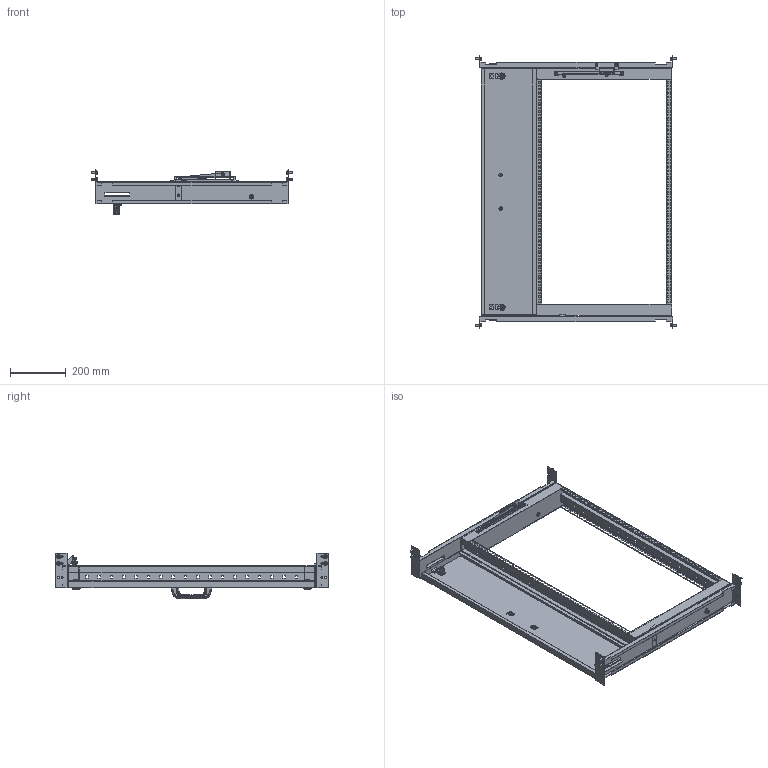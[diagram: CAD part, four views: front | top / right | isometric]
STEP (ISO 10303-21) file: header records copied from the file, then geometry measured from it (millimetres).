
FILE_DESCRIPTION(('Open CASCADE Model'),'2;1');
FILE_NAME('Open CASCADE Shape Model','2025-03-24T10:15:18',('Author'),( 'Open CASCADE'),'Open CASCADE STEP processor 7.8','Open CASCADE 7.8' ,'Unknown');
FILE_SCHEMA(('AUTOMOTIVE_DESIGN { 1 0 10303 214 1 1 1 1 }'));
Length unit declared in the file: millimetre
Products named in the file (32): Compound1; Compound2; Solid1; Solid2; Compound3; Solid3; Solid4; Solid5; Solid6; Solid7; Solid8; Solid9; Solid10; Solid11; Solid12; Solid13; Solid14; Solid15; Solid16; Solid17; Compound4; Solid18; Solid19; Solid20; Solid21; Compound5; Solid22; Solid23; Solid24; Solid25; Solid26; Solid27
Assembly tree (50 placements, depth 3):
  Compound1
    Compound2
      Solid1
      Solid2
    Compound3
      Solid3
      Solid2
    Solid4  x2
    Solid5  x2
    Solid6
    Solid7
    Solid8
    Solid9
    Solid10
    Solid11  x2
    Solid12  x4
    Solid13  x8
    Solid14
    Solid15
    Solid16  x2
    Solid17  x2
    Compound4
      Solid18
      Solid19
    Solid20
    Solid21
    Compound5
      Solid22  x2
      Solid23
      Solid24  x2
      Solid25
      Solid26  x2
      Solid27
Bounding box: 726 x 981.5 x 165 mm (x, y, z)
Volume: 1559586.5 mm3; surface area: 1934412.7 mm2
Topology: 48 solids, 66 shells, 4575 faces, 12510 edges, 8025 vertices
Faces by surface type: plane 2488, cylinder 724, bspline 670, cone 439, torus 176, sphere 78
Entity records: 120648 total; most frequent: CARTESIAN_POINT 47634, ORIENTED_EDGE 16152, DIRECTION 13096, EDGE_CURVE 8246, VERTEX_POINT 5287, LINE 4732, VECTOR 4732, AXIS2_PLACEMENT_3D 4182
